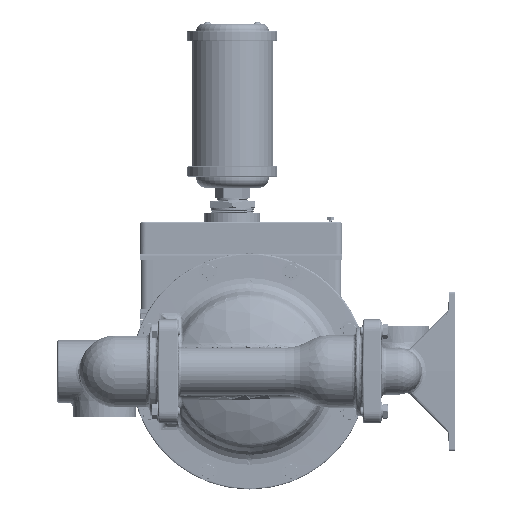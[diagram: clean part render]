
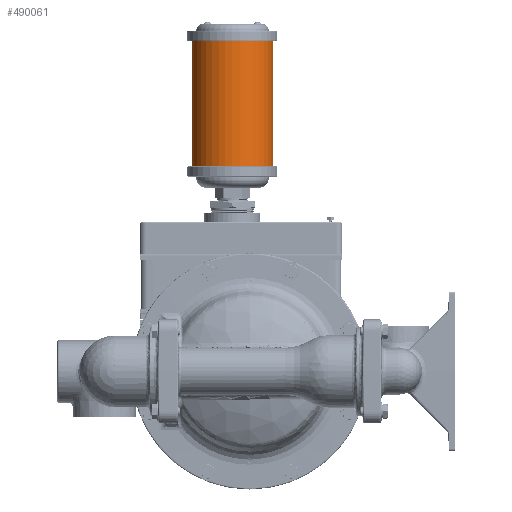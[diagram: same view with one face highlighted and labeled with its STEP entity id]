
A CAD part, left-side view. The second image highlights one B-rep face of the part: STEP entity #490061.
In plain terms, the highlighted cylindrical face has radius 45.339 mm (diameter 90.678 mm), a partial arc.
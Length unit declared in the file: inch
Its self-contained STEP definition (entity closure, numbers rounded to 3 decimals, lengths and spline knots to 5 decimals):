
#32345 = CARTESIAN_POINT ( 'NONE',  ( 0., 0.75, 8.983 ) ) ;
#73996 = DIRECTION ( 'NONE',  ( 0., 0., 1. ) ) ;
#81548 = DIRECTION ( 'NONE',  ( 0., 0., -1. ) ) ;
#110715 = DIRECTION ( 'NONE',  ( 0., 0., 1. ) ) ;
#134901 = DIRECTION ( 'NONE',  ( 0., 0., 1. ) ) ;
#146202 = ORIENTED_EDGE ( 'NONE', *, *, #527946, .F. ) ;
#151214 = DIRECTION ( 'NONE',  ( 0., 1., 0. ) ) ;
#166251 = AXIS2_PLACEMENT_3D ( 'NONE', #32345, #134901, #151214 ) ;
#182328 = EDGE_CURVE ( 'NONE', #336283, #594128, #641994, .T. ) ;
#183305 = CIRCLE ( 'NONE', #447600, 1.785 ) ;
#188331 = CARTESIAN_POINT ( 'NONE',  ( 0., 2.535, 8.983 ) ) ;
#194265 = EDGE_LOOP ( 'NONE', ( #538613, #417859, #146202, #645733 ) ) ;
#219357 = AXIS2_PLACEMENT_3D ( 'NONE', #641088, #81548, #227293 ) ;
#227293 = DIRECTION ( 'NONE',  ( 0., -1., 0. ) ) ;
#237100 = FACE_OUTER_BOUND ( 'NONE', #194265, .T. ) ;
#238008 = DIRECTION ( 'NONE',  ( 0., 0., 1. ) ) ;
#240049 = VECTOR ( 'NONE', #238008, 39.37008 ) ;
#240759 = VERTEX_POINT ( 'NONE', #641141 ) ;
#241670 = VERTEX_POINT ( 'NONE', #418943 ) ;
#259159 = CARTESIAN_POINT ( 'NONE',  ( 0., 2.535, 8.983 ) ) ;
#279895 = EDGE_CURVE ( 'NONE', #336283, #240759, #599733, .T. ) ;
#282465 = CARTESIAN_POINT ( 'NONE',  ( 0., 0.75, 14.483 ) ) ;
#302901 = LINE ( 'NONE', #412074, #543486 ) ;
#310295 = CARTESIAN_POINT ( 'NONE',  ( 0., 2.535, 14.483 ) ) ;
#336283 = VERTEX_POINT ( 'NONE', #259159 ) ;
#343210 = EDGE_CURVE ( 'NONE', #240759, #241670, #302901, .T. ) ;
#412074 = CARTESIAN_POINT ( 'NONE',  ( 0., -1.035, 8.983 ) ) ;
#417859 = ORIENTED_EDGE ( 'NONE', *, *, #343210, .T. ) ;
#418943 = CARTESIAN_POINT ( 'NONE',  ( 0., -1.035, 14.483 ) ) ;
#434826 = DIRECTION ( 'NONE',  ( 0., 1., 0. ) ) ;
#439139 = CYLINDRICAL_SURFACE ( 'NONE', #219357, 1.785 ) ;
#447600 = AXIS2_PLACEMENT_3D ( 'NONE', #282465, #73996, #434826 ) ;
#490061 = ADVANCED_FACE ( 'NONE', ( #237100 ), #439139, .T. ) ;
#527946 = EDGE_CURVE ( 'NONE', #594128, #241670, #183305, .T. ) ;
#538613 = ORIENTED_EDGE ( 'NONE', *, *, #279895, .T. ) ;
#543486 = VECTOR ( 'NONE', #110715, 39.37008 ) ;
#594128 = VERTEX_POINT ( 'NONE', #310295 ) ;
#599733 = CIRCLE ( 'NONE', #166251, 1.785 ) ;
#641088 = CARTESIAN_POINT ( 'NONE',  ( 0., 0.75, 15.592 ) ) ;
#641141 = CARTESIAN_POINT ( 'NONE',  ( 0., -1.035, 8.983 ) ) ;
#641994 = LINE ( 'NONE', #188331, #240049 ) ;
#645733 = ORIENTED_EDGE ( 'NONE', *, *, #182328, .F. ) ;
